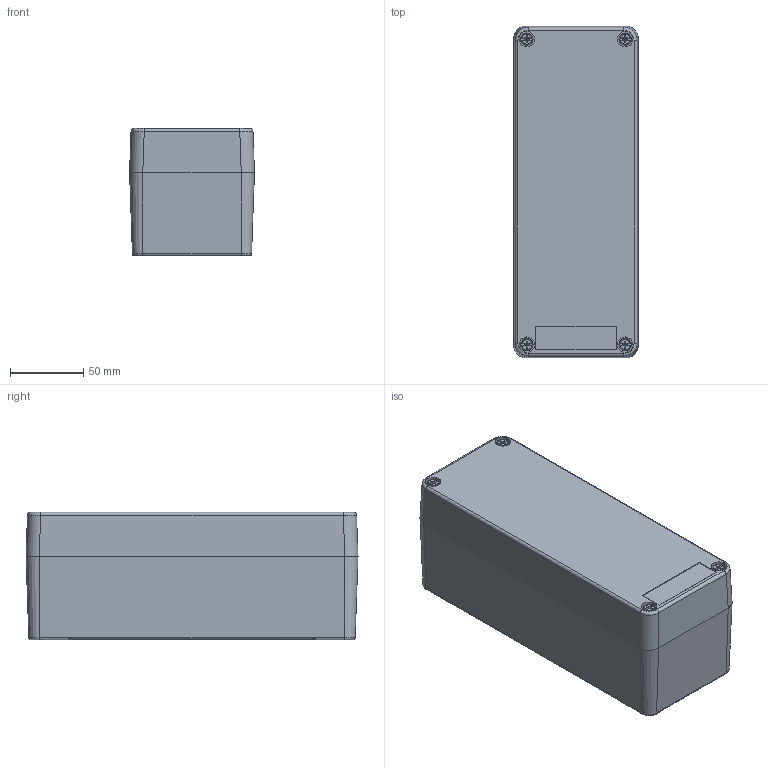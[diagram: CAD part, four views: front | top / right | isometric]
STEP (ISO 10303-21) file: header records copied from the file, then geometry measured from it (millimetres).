
FILE_DESCRIPTION((''),'2;1');
FILE_NAME('XAPA2100_ASM','2016-01-18T',('SESA179778'),('Schneider-Electric'),'PRO/ENGINEER BY PARAMETRIC TECHNOLOGY CORPORATION, 2014310','PRO/ENGINEER BY PARAMETRIC TECHNOLOGY CORPORATION, 2014310','');
FILE_SCHEMA(('CONFIG_CONTROL_DESIGN'));
Products named in the file (6): 042636301AF6; SEAL; 042636401AF6; 041493701AF6; 042740201AF6; XAPA2100_ASM
Assembly tree (11 placements, depth 2):
  XAPA2100_ASM
    042636301AF6
    SEAL
    042636401AF6
    041493701AF6  x4
    042740201AF6  x4
Bounding box: 85 x 226 x 86.7 mm (x, y, z)
Volume: 363890.8 mm3; surface area: 198652.7 mm2
Topology: 11 solids, 11 shells, 2857 faces, 7743 edges, 4996 vertices
Faces by surface type: plane 1753, cylinder 480, cone 424, torus 136, bspline 50, sphere 14
Entity records: 69939 total; most frequent: CARTESIAN_POINT 16342, ORIENTED_EDGE 11424, DIRECTION 10588, EDGE_CURVE 5712, VECTOR 4430, LINE 4430, VERTEX_POINT 3661, AXIS2_PLACEMENT_3D 3079
